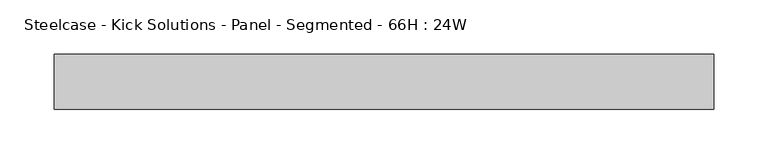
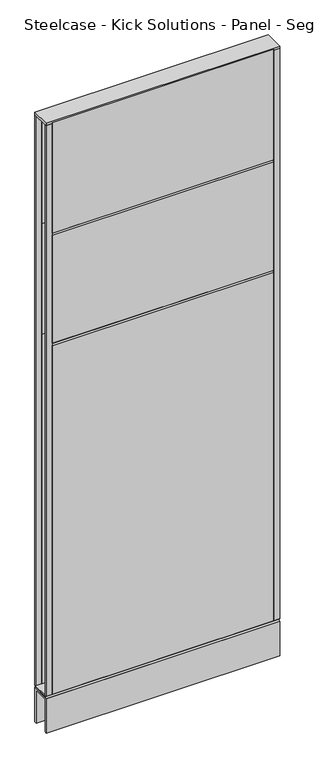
"""IFC4 building model written with IfcOpenShell, lengths in millimetres: furniture geometry, Steelcase - Kick Solutions - Panel - Segmented - 66H : 24W."""

from ifc_helpers import new_model, si_unit, frame, origin, place, context, project, spatial, polyline, outline, extrude, source, transform, mapped, element, save


def steelcase_kick_solutions_panel_segmented_66h_24w_15eec53e(model_context):
    return source(origin(), model_context, "Body", "SweptSolid", [
        extrude(outline(polyline([(1.5e-06, 1069.8811552), (-3.175, 1066.8), (-3.175, 1371.6), (1.5e-06, 1368.5188448), (1.5e-06, 1069.8811552)])), frame((15.8749996, 0.0, 0.0), z_axis=(1.0, 0.0, 0.0), x_axis=(0.0, 1.0, 0.0)), (0.0, 0.0, 1.0), 577.8500008),
        extrude(outline(polyline([(1.5e-06, 1374.6811552), (-3.175, 1371.6), (-3.175, 1676.4), (1.5e-06, 1673.3188448), (1.5e-06, 1374.6811552)])), frame((15.8749996, 0.0, 0.0), z_axis=(1.0, 0.0, 0.0), x_axis=(0.0, 1.0, 0.0)), (0.0, 0.0, 1.0), 577.8500008),
        extrude(outline(polyline([(1.5e-06, 101.600003), (-3.175, 101.600003), (-3.175, 1066.8), (1.5e-06, 1063.7188448), (1.5e-06, 101.600003)])), frame((15.8749996, 0.0, 0.0), z_axis=(1.0, 0.0, 0.0), x_axis=(0.0, 1.0, 0.0)), (0.0, 0.0, 1.0), 577.8500008),
        extrude(outline(polyline([(-50.8000015, 1374.6811552), (-50.8000015, 1679.448), (-47.625, 1676.4), (-47.625, 1371.6), (-50.8000015, 1374.6811552)])), frame((15.8749996, 0.0, 0.0), z_axis=(1.0, 0.0, 0.0), x_axis=(0.0, 1.0, 0.0)), (0.0, 0.0, 1.0), 577.8500008),
        extrude(outline(polyline([(-50.8000015, 1069.8811552), (-50.8000015, 1368.5188448), (-47.625, 1371.6), (-47.625, 1066.8), (-50.8000015, 1069.8811552)])), frame((15.8749996, 0.0, 0.0), z_axis=(1.0, 0.0, 0.0), x_axis=(0.0, 1.0, 0.0)), (0.0, 0.0, 1.0), 577.8500008),
        extrude(outline(polyline([(-50.8000015, 101.600003), (-50.8000015, 1063.7188448), (-47.625, 1066.8), (-47.625, 101.600003), (-50.8000015, 101.600003)])), frame((15.8749996, 0.0, 0.0), z_axis=(1.0, 0.0, 0.0), x_axis=(0.0, 1.0, 0.0)), (0.0, 0.0, 1.0), 577.8500008),
        extrude(outline(polyline([(609.6, -3.1750015), (593.7250004, -3.1750015), (593.7250004, 0.0), (609.6, 0.0), (609.6, -3.1750015)])), frame((0.0, 0.0, 101.7169049), z_axis=(0.0, 0.0, 1.0), x_axis=(1.0, 0.0, 0.0)), (0.0, 0.0, 1.0), 1574.799997),
        extrude(outline(polyline([(15.8749996, -50.8000015), (0.0, -50.8000015), (0.0, -47.625), (15.8749996, -47.625), (15.8749996, -50.8000015)])), frame((0.0, 0.0, 101.7169049), z_axis=(0.0, 0.0, 1.0), x_axis=(1.0, 0.0, 0.0)), (0.0, 0.0, 1.0), 1574.799997),
        extrude(outline(polyline([(-50.7995075, 101.7169049), (-0.000494, 101.7169049), (-3.0583512, 98.5421458), (-47.7416503, 98.5421458), (-50.7995075, 101.7169049)])), frame((0.0, 0.0, 0.0), z_axis=(1.0, 0.0, 0.0), x_axis=(0.0, 1.0, 0.0)), (0.0, 0.0, 1.0), 609.6),
        extrude(outline(polyline([(609.6, 0.0), (609.6, -50.8000015), (0.0, -50.8000015), (0.0, 0.0), (609.6, 0.0)])), frame((0.0, 0.0, 1676.5169018), z_axis=(0.0, 0.0, 1.0), x_axis=(1.0, 0.0, 0.0)), (0.0, 0.0, 1.0), 6.35),
        extrude(outline(polyline([(15.8749996, -3.1750015), (0.0, -3.1750015), (0.0, 0.0), (15.8749996, 0.0), (15.8749996, -3.1750015)])), frame((0.0, 0.0, 101.7169049), z_axis=(0.0, 0.0, 1.0), x_axis=(1.0, 0.0, 0.0)), (0.0, 0.0, 1.0), 1574.799997),
        extrude(outline(polyline([(609.6, -50.8000015), (593.7250004, -50.8000015), (593.7250004, -47.625), (609.6, -47.625), (609.6, -50.8000015)])), frame((0.0, 0.0, 101.7169049), z_axis=(0.0, 0.0, 1.0), x_axis=(1.0, 0.0, 0.0)), (0.0, 0.0, 1.0), 1574.799997),
        extrude(outline(polyline([(-50.8000015, 95.3668927), (-47.6247484, 98.5421458), (-3.1752531, 98.5421458), (0.0, 95.3668927), (-50.8000015, 95.3668927)])), frame((0.0, 0.0, 0.0), z_axis=(1.0, 0.0, 0.0), x_axis=(0.0, 1.0, 0.0)), (0.0, 0.0, 1.0), 609.6),
        extrude(outline(polyline([(0.0, 0.0), (-5.08, 0.0), (-5.08, 90.2869018), (-45.7200015, 90.2869018), (-45.7200015, 0.0), (-50.8000015, 0.0), (-50.8000015, 95.3669018), (0.0, 95.3669018), (0.0, 0.0)])), frame((0.0, 0.0, 0.0), z_axis=(1.0, 0.0, 0.0), x_axis=(0.0, 1.0, 0.0)), (0.0, 0.0, 1.0), 609.6),
    ])


if __name__ == "__main__":
    model = new_model("IFC4")
    model_context = context("Model", 3, world=origin())
    ifc_project = project(units=[si_unit("LENGTHUNIT", "METRE", prefix="MILLI")], contexts=[model_context])
    site = spatial("IfcSite", under=ifc_project)
    building = spatial("IfcBuilding", under=site)
    placement = place(None, origin())
    steelcase_kick_solutions_panel_segmented_66h_24w_shape = steelcase_kick_solutions_panel_segmented_66h_24w_15eec53e(model_context)
    element("IfcFurniture", 1, ObjectType="Steelcase - Kick Solutions - Panel - Segmented - 66H : 24W", at=placement, inside=building, context=model_context, shape_type="MappedRepresentation", body=[
        mapped(steelcase_kick_solutions_panel_segmented_66h_24w_shape, transform((0.0, 0.0, 0.0), x_axis=(1.0, 0.0, 0.0), y_axis=(0.0, 1.0, 0.0), z_axis=(0.0, 0.0, 1.0))),
    ])
    save(model, "model.ifc")
